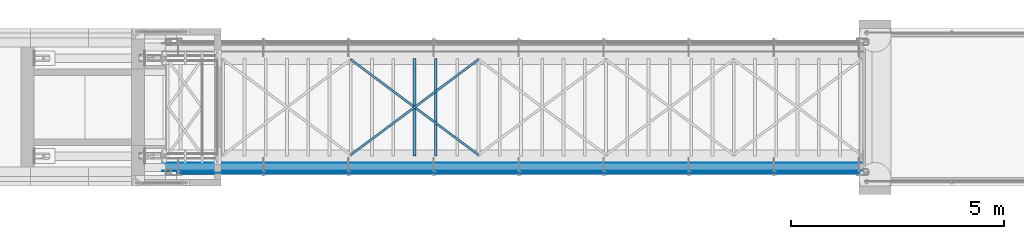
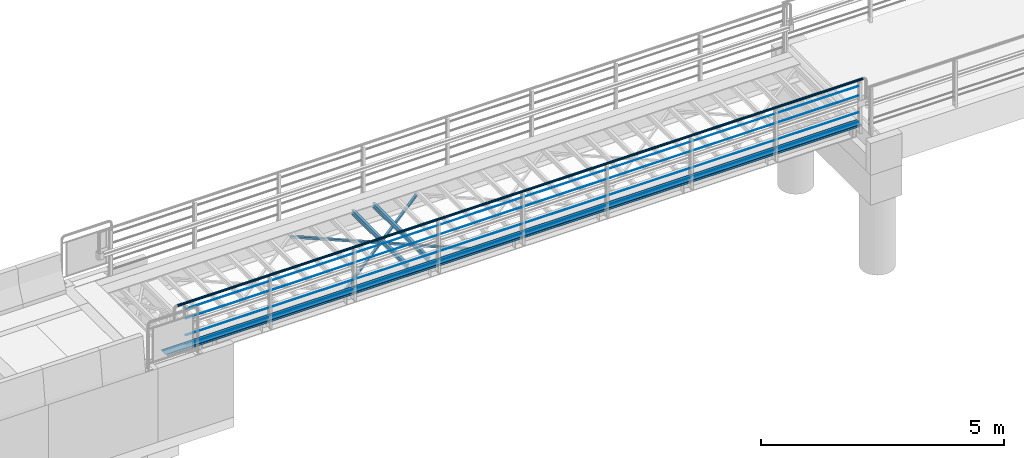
# One storey, part 7 of 31: 12 beams.
"""IFC2X3 building model written with IfcOpenShell, lengths in millimetres."""

from ifc_helpers import new_model, si_unit, frame, origin_with_axes, place, context, subcontext, project, spatial, faceted_brep, material, type_object, element, save


model = new_model("IFC2X3")

# Units and contexts
model_context = context("Model", 3, precision=1e-05, world=origin_with_axes())
body_context = subcontext(model_context, "Body", "Model", "MODEL_VIEW")
ifc_project = project(units=[si_unit("LENGTHUNIT", "METRE", prefix="MILLI"), si_unit("AREAUNIT", "SQUARE_METRE"), si_unit("VOLUMEUNIT", "CUBIC_METRE"), si_unit("MASSUNIT", "GRAM", prefix="KILO"), si_unit("TIMEUNIT", "SECOND"), si_unit("PLANEANGLEUNIT", "RADIAN"), si_unit("SOLIDANGLEUNIT", "STERADIAN"), si_unit("THERMODYNAMICTEMPERATUREUNIT", "DEGREE_CELSIUS"), si_unit("LUMINOUSINTENSITYUNIT", "LUMEN")], contexts=[model_context])

# Site, building, storey
site_placement = place(None, origin_with_axes())
site = spatial("IfcSite", under=ifc_project, at=site_placement, Name="Undefined", CompositionType="ELEMENT")
building_placement = place(site_placement, origin_with_axes())
building = spatial("IfcBuilding", under=site, at=building_placement, Name="Undefined", CompositionType="ELEMENT")
storey_placement = place(building_placement, origin_with_axes())
storey = spatial("IfcBuildingStorey", under=building, at=storey_placement, Name="Undefined", CompositionType="ELEMENT", Elevation=0.0)

# Beams
ifc_material = material(Name="STEEL/S355J2+N")
beam_type_1 = type_object("IfcBeamType", Name="IPE120", PredefinedType="NOTDEFINED")
for number, where, z_axis, x_axis in (
    (1, (9450.0, 5.75, -105.0), (0.0, 0.0, 1.0), (0.0, 1.0, 0.0)),
    (2, (8950.0, 5.75, -105.0), (0.0, 0.0, 1.0), (0.0, 1.0, 0.0)),
):
    element("IfcBeam", number, at=place(storey_placement, frame(where, z_axis=z_axis, x_axis=x_axis)), inside=storey, type_object=beam_type_1, material=ifc_material, Name="STÅLBJELKE", context=body_context, shape_type="Brep", body=[
        faceted_brep([(0.0, 32.0, -60.0), (0.0, 32.0, -53.699999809), (2288.5, 32.0, -53.699999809), (2288.5, 32.0, -60.0), (0.0, 2.2000000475, -53.699999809), (2288.5, 2.2000000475, -53.699999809), (0.0, 2.2000000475, 53.699999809), (2288.5, 2.2000000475, 53.699999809), (0.0, 32.0, 53.699999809), (2288.5, 32.0, 53.699999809), (0.0, 32.0, 60.0), (2288.5, 32.0, 60.0), (0.0, -32.0, 60.0), (2288.5, -32.0, 60.0), (0.0, -32.0, 53.699999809), (2288.5, -32.0, 53.699999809), (0.0, -2.2000000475, 53.699999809), (2288.5, -2.2000000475, 53.699999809), (0.0, -2.2000000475, -53.699999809), (2288.5, -2.2000000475, -53.699999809), (0.0, -32.0, -53.699999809), (2288.5, -32.0, -53.699999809), (0.0, -32.0, -60.0), (2288.5, -32.0, -60.0)], [[[0, 1, 2, 3]], [[1, 4, 5, 2]], [[4, 6, 7, 5]], [[6, 8, 9, 7]], [[8, 10, 11, 9]], [[10, 12, 13, 11]], [[12, 14, 15, 13]], [[14, 16, 17, 15]], [[16, 18, 19, 17]], [[18, 20, 21, 19]], [[20, 22, 23, 21]], [[22, 0, 3, 23]], [[5, 7, 9, 11, 13, 15, 17, 19, 21, 23, 3, 2]], [[22, 20, 18, 16, 14, 12, 10, 8, 6, 4, 1, 0]]]),
    ])
beam_type_2 = type_object("IfcBeamType", Name="D12", PredefinedType="NOTDEFINED")
for number, where, z_axis, x_axis in (
    (3, (19400.0, -400.0, 120.0), (0.0, -1.0, 0.0), (-1.0, 0.0, 0.0)),
    (4, (19400.0, -400.0, 780.0), (0.0, -1.0, 0.0), (-1.0, 0.0, 0.0)),
    (5, (19400.0, -400.0, 1020.0), (0.0, -1.0, 0.0), (-1.0, 0.0, 0.0)),
    (6, (19400.0, -400.0, 360.0), (0.0, -1.0, 0.0), (-1.0, 0.0, 0.0)),
):
    element("IfcBeam", number, at=place(storey_placement, frame(where, z_axis=z_axis, x_axis=x_axis)), inside=storey, type_object=beam_type_2, material=ifc_material, Name="REKKVERK", context=body_context, shape_type="Brep", body=[
        faceted_brep([(0.0, -6.0, 0.0), (0.0, -4.24264068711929, -4.24264068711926), (15960.0, -4.24264068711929, -4.24264068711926), (15960.0, -6.0, 0.0), (0.0, 0.0, -6.0), (15960.0, 0.0, -6.0), (0.0, 4.24264068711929, -4.24264068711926), (15960.0, 4.24264068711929, -4.24264068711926), (0.0, 6.0, 0.0), (15960.0, 6.0, 0.0), (0.0, 4.24264068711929, 4.24264068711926), (15960.0, 4.24264068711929, 4.24264068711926), (0.0, 0.0, 6.0), (15960.0, 0.0, 6.0), (0.0, -4.24264068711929, 4.24264068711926), (15960.0, -4.24264068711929, 4.24264068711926)], [[[0, 1, 2, 3]], [[1, 4, 5, 2]], [[4, 6, 7, 5]], [[6, 8, 9, 7]], [[8, 10, 11, 9]], [[10, 12, 13, 11]], [[12, 14, 15, 13]], [[14, 0, 3, 15]], [[5, 7, 9, 11, 13, 15, 3, 2]], [[14, 12, 10, 8, 6, 4, 1, 0]]]),
    ])
beam_type_3 = type_object("IfcBeamType", Name="CFCHS60.3*3.2", PredefinedType="NOTDEFINED")
beam_1_placement = place(storey_placement, frame((19500.0, -400.0, 1169.85), z_axis=(0.0, -1.0, 0.0), x_axis=(-1.0, 0.0, 0.0)))
element("IfcBeam", 7, at=beam_1_placement, inside=storey, type_object=beam_type_3, material=ifc_material, Name="REKKVERK", context=body_context, shape_type="Brep", body=[
    faceted_brep([(0.0, -26.95, 0.0), (0.0, -24.898553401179, 10.3133185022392), (16263.85, -24.8985534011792, 10.3133185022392), (16263.85, -26.95, 0.0), (0.0, -19.0565277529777, 19.0565277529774), (16263.85, -19.0565277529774, 19.0565277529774), (0.0, -10.3133185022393, 24.8985534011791), (16263.85, -10.3133185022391, 24.8985534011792), (0.0, 0.0, 26.95), (16263.85, 0.0, 26.95), (0.0, 10.3133185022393, 24.8985534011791), (16263.85, 10.3133185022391, 24.8985534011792), (0.0, 19.0565277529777, 19.0565277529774), (16263.85, 19.0565277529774, 19.0565277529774), (0.0, 24.898553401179, 10.3133185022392), (16263.85, 24.8985534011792, 10.3133185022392), (0.0, 26.95, 0.0), (16263.85, 26.95, 0.0), (0.0, 24.898553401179, -10.3133185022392), (16263.85, 24.8985534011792, -10.3133185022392), (0.0, 19.0565277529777, -19.0565277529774), (16263.85, 19.0565277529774, -19.0565277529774), (0.0, 10.3133185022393, -24.8985534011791), (16263.85, 10.3133185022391, -24.8985534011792), (0.0, 0.0, -26.95), (16263.85, 0.0, -26.95), (0.0, -10.3133185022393, -24.8985534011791), (16263.85, -10.3133185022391, -24.8985534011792), (0.0, -19.0565277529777, -19.0565277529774), (16263.85, -19.0565277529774, -19.0565277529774), (0.0, -24.898553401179, -10.3133185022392), (16263.85, -24.8985534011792, -10.3133185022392), (0.0, -30.15, 0.0), (0.0, -27.8549679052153, -11.5379054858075), (16263.85, -27.8549679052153, -11.5379054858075), (16263.85, -30.1500000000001, 0.0), (0.0, -21.3192694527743, -21.3192694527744), (16263.85, -21.3192694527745, -21.3192694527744), (0.0, -11.5379054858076, -27.8549679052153), (16263.85, -11.5379054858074, -27.8549679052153), (0.0, 0.0, -30.15), (16263.85, 0.0, -30.15), (0.0, 11.5379054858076, -27.8549679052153), (16263.85, 11.5379054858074, -27.8549679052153), (0.0, 21.3192694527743, -21.3192694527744), (16263.85, 21.3192694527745, -21.3192694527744), (0.0, 27.8549679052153, -11.5379054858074), (16263.85, 27.8549679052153, -11.5379054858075), (0.0, 30.15, 0.0), (16263.85, 30.1500000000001, 0.0), (0.0, 27.8549679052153, 11.5379054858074), (16263.85, 27.8549679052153, 11.5379054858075), (0.0, 21.3192694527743, 21.3192694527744), (16263.85, 21.3192694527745, 21.3192694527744), (0.0, 11.5379054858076, 27.8549679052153), (16263.85, 11.5379054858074, 27.8549679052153), (0.0, 0.0, 30.15), (16263.85, 0.0, 30.15), (0.0, -11.5379054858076, 27.8549679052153), (16263.85, -11.5379054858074, 27.8549679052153), (0.0, -21.3192694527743, 21.3192694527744), (16263.85, -21.3192694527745, 21.3192694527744), (0.0, -27.8549679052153, 11.5379054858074), (16263.85, -27.8549679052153, 11.5379054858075)], [[[0, 1, 2, 3]], [[1, 4, 5, 2]], [[4, 6, 7, 5]], [[6, 8, 9, 7]], [[8, 10, 11, 9]], [[10, 12, 13, 11]], [[12, 14, 15, 13]], [[14, 16, 17, 15]], [[16, 18, 19, 17]], [[18, 20, 21, 19]], [[20, 22, 23, 21]], [[22, 24, 25, 23]], [[24, 26, 27, 25]], [[26, 28, 29, 27]], [[28, 30, 31, 29]], [[30, 0, 3, 31]], [[32, 33, 34, 35]], [[33, 36, 37, 34]], [[36, 38, 39, 37]], [[38, 40, 41, 39]], [[40, 42, 43, 41]], [[42, 44, 45, 43]], [[44, 46, 47, 45]], [[46, 48, 49, 47]], [[48, 50, 51, 49]], [[50, 52, 53, 51]], [[52, 54, 55, 53]], [[54, 56, 57, 55]], [[56, 58, 59, 57]], [[58, 60, 61, 59]], [[60, 62, 63, 61]], [[62, 32, 35, 63]], [[37, 39, 41, 43, 45, 47, 49, 51, 53, 55, 57, 59, 61, 63, 35, 34], [5, 7, 9, 11, 13, 15, 17, 19, 21, 23, 25, 27, 29, 31, 3, 2]], [[62, 60, 58, 56, 54, 52, 50, 48, 46, 44, 42, 40, 38, 36, 33, 32], [30, 28, 26, 24, 22, 20, 18, 16, 14, 12, 10, 8, 6, 4, 1, 0]]]),
])
beam_type_4 = type_object("IfcBeamType", Name="FL200*5", PredefinedType="NOTDEFINED")
beam_2_placement = place(storey_placement, frame((2979.13000762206, -250.001258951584, -2.5), z_axis=(0.0, 1.0, 0.0), x_axis=(1.0, 0.0, 0.0)))
element("IfcBeam", 8, at=beam_2_placement, inside=storey, type_object=beam_type_4, material=ifc_material, Name="RIST", context=body_context, shape_type="Brep", body=[
    faceted_brep([(1.04591890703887e-11, 2.5, -100.0), (-1.04591890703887e-11, 2.5, 100.0), (16520.87, 2.5, 99.9999999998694), (16520.87, 2.5, -100.000000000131), (-1.04591890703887e-11, -2.5, 100.0), (16520.87, -2.5, 99.9999999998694), (1.04591890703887e-11, -2.5, -100.0), (16520.87, -2.5, -100.000000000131)], [[[0, 1, 2, 3]], [[1, 4, 5, 2]], [[4, 6, 7, 5]], [[6, 0, 3, 7]], [[5, 7, 3, 2]], [[6, 4, 1, 0]]]),
])
beam_type_5 = type_object("IfcBeamType", Name="FL50*5", PredefinedType="NOTDEFINED")
for number, where, z_axis, x_axis in (
    (9, (19499.9999998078, -347.5, -30.0), (0.0, 0.0, -1.0), (-1.0, 0.0, 0.0)),
    (10, (19500.0000001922, -152.5, -30.0), (0.0, 0.0, -1.0), (-1.0, 0.0, 0.0)),
):
    element("IfcBeam", number, at=place(storey_placement, frame(where, z_axis=z_axis, x_axis=x_axis)), inside=storey, type_object=beam_type_5, material=ifc_material, Name="STÅLBJELKE", context=body_context, shape_type="Brep", body=[
        faceted_brep([(0.0, 2.5, -25.0), (0.0, 2.5, 25.0), (16480.0000000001, 2.50000000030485, 25.0), (16480.0000000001, 2.50000000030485, -25.0), (-7.27595761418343e-12, -2.50000000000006, 25.0), (16480.0, -2.49999999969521, 25.0), (-7.27595761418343e-12, -2.50000000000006, -25.0), (16480.0, -2.49999999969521, -25.0)], [[[0, 1, 2, 3]], [[1, 4, 5, 2]], [[4, 6, 7, 5]], [[6, 0, 3, 7]], [[5, 7, 3, 2]], [[6, 4, 1, 0]]]),
    ])
beam_type_6 = type_object("IfcBeamType", Name="L50*5", PredefinedType="NOTDEFINED")
for number, where, z_axis, x_axis in (
    (11, (7450.0, 2270.0, -190.0), (0.0, 0.0, -1.0), (0.801280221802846, -0.598289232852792, 0.0)),
    (12, (7450.00000103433, 29.9999986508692, -190.0), (0.0, 0.0, -1.0), (0.801280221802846, 0.598289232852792, 0.0)),
):
    element("IfcBeam", number, at=place(storey_placement, frame(where, z_axis=z_axis, x_axis=x_axis)), inside=storey, type_object=beam_type_6, material=ifc_material, Name="STÅLBJELKE", context=body_context, shape_type="Brep", body=[
        faceted_brep([(-1.81898940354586e-12, 24.9999999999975, -25.0), (-1.81898940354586e-12, 24.9999999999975, 25.0), (3744.00854697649, 25.0000000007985, 25.0), (3744.00854697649, 25.0000000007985, -25.0), (-1.36424205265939e-12, 19.999999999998, 25.0), (3744.00854697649, 20.0000000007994, 25.0), (-1.36424205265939e-12, 19.999999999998, -20.0), (3744.00854697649, 20.0000000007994, -20.0), (1.81898940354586e-12, -24.9999999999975, -20.0), (3744.0085469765, -24.9999999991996, -20.0), (1.81898940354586e-12, -24.9999999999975, -25.0), (3744.0085469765, -24.9999999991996, -25.0)], [[[0, 1, 2, 3]], [[1, 4, 5, 2]], [[4, 6, 7, 5]], [[6, 8, 9, 7]], [[8, 10, 11, 9]], [[10, 0, 3, 11]], [[5, 7, 9, 11, 3, 2]], [[10, 8, 6, 4, 1, 0]]]),
    ])

save(model, "model.ifc")
